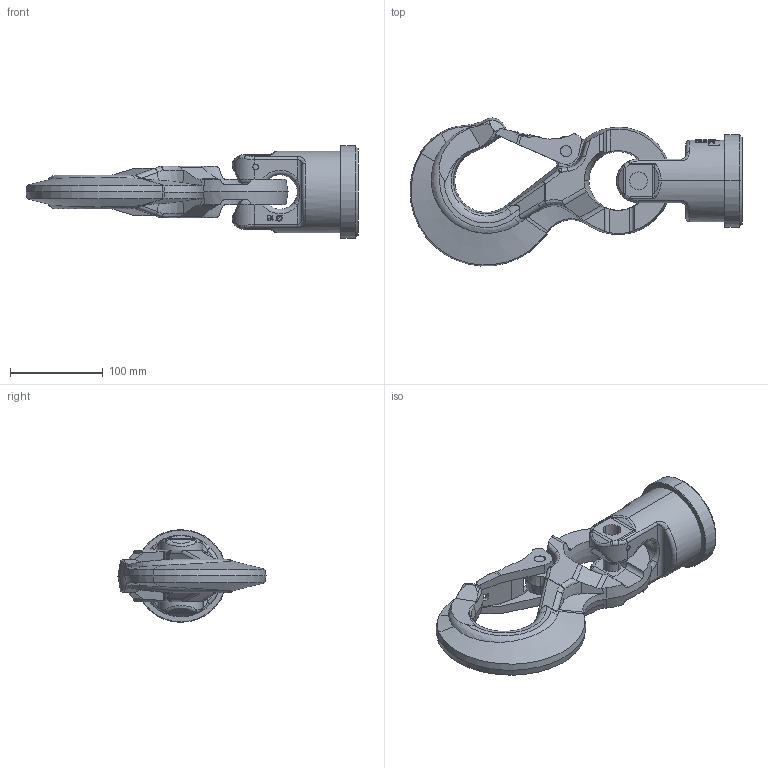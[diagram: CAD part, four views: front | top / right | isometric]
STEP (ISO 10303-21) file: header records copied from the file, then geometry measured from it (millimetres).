
FILE_DESCRIPTION((''),'2;1');
FILE_NAME('001-M31342-P-40_ASM','2018-04-26T',('Anja.Joas'),(''),'PRO/ENGINEER BY PARAMETRIC TECHNOLOGY CORPORATION, 2011490','PRO/ENGINEER BY PARAMETRIC TECHNOLOGY CORPORATION, 2011490','');
FILE_SCHEMA(('CONFIG_CONTROL_DESIGN'));
Length unit declared in the file: millimetre
Products named in the file (6): 001-M31342-P-20; 001-M31342-P-50; 001-M31476-001; 001-M31477-001; 001-M31476-002_ASM; 001-M31342-P-40_ASM
Assembly tree (5 placements, depth 3):
  001-M31342-P-40_ASM
    001-M31342-P-20
    001-M31342-P-50
    001-M31476-002_ASM
      001-M31476-001
      001-M31477-001
Bounding box: 358.29 x 159.73 x 100 mm (x, y, z)
Volume: 1295025.9 mm3; surface area: 158816.4 mm2
Topology: 4 solids, 4 shells, 777 faces, 2101 edges, 1338 vertices
Faces by surface type: plane 484, cylinder 121, bspline 60, sphere 42, cone 38, torus 32
Entity records: 28752 total; most frequent: CARTESIAN_POINT 10225, ORIENTED_EDGE 4146, DIRECTION 3393, EDGE_CURVE 2073, VERTEX_POINT 1338, AXIS2_PLACEMENT_3D 1154, VECTOR 1085, LINE 1085
